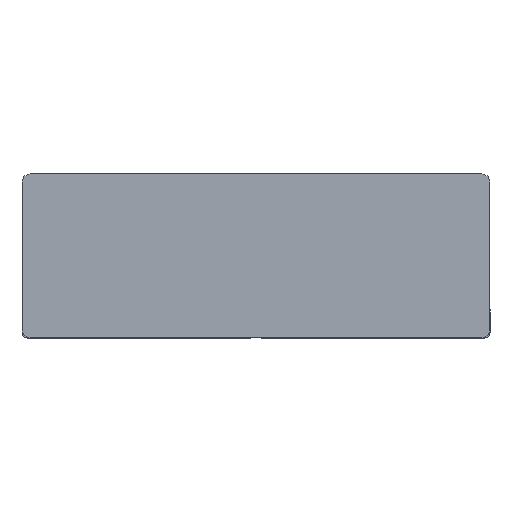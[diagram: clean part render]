
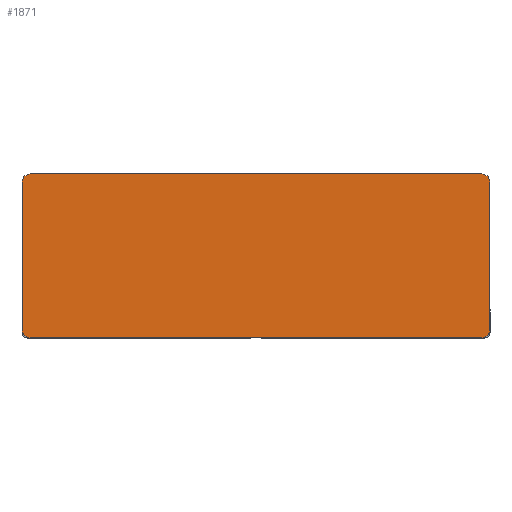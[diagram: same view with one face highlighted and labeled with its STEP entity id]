
A CAD part, top view. The second image highlights one B-rep face of the part: STEP entity #1871.
In plain terms, the highlighted planar face has unit normal (0, 0, 1).
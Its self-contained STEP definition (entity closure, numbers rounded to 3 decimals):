
#17 = CARTESIAN_POINT ( 'NONE',  ( 140., 44., 0. ) ) ;
#100 = VERTEX_POINT ( 'NONE', #2382 ) ;
#154 = EDGE_CURVE ( 'NONE', #771, #352, #3310, .T. ) ;
#169 = EDGE_CURVE ( 'NONE', #3431, #1637, #2527, .T. ) ;
#238 = DIRECTION ( 'NONE',  ( 1., 0., 0. ) ) ;
#325 = EDGE_CURVE ( 'NONE', #1641, #100, #2133, .T. ) ;
#352 = VERTEX_POINT ( 'NONE', #762 ) ;
#386 = DIRECTION ( 'NONE',  ( 0., 0., 1. ) ) ;
#522 = ORIENTED_EDGE ( 'NONE', *, *, #604, .T. ) ;
#589 = LINE ( 'NONE', #2428, #837 ) ;
#604 = EDGE_CURVE ( 'NONE', #3352, #771, #2946, .T. ) ;
#621 = ORIENTED_EDGE ( 'NONE', *, *, #3194, .T. ) ;
#632 = DIRECTION ( 'NONE',  ( 0., 1., 0. ) ) ;
#716 = CARTESIAN_POINT ( 'NONE',  ( -140., 44., 0. ) ) ;
#733 = DIRECTION ( 'NONE',  ( 0., 0., 1. ) ) ;
#762 = CARTESIAN_POINT ( 'NONE',  ( -135., -49., 0. ) ) ;
#771 = VERTEX_POINT ( 'NONE', #2312 ) ;
#772 = LINE ( 'NONE', #1446, #1221 ) ;
#774 = ORIENTED_EDGE ( 'NONE', *, *, #325, .T. ) ;
#796 = DIRECTION ( 'NONE',  ( 1., 0., 0. ) ) ;
#837 = VECTOR ( 'NONE', #2461, 1000. ) ;
#847 = DIRECTION ( 'NONE',  ( 0., 0., 1. ) ) ;
#909 = CARTESIAN_POINT ( 'NONE',  ( 135., 44., 0. ) ) ;
#959 = CARTESIAN_POINT ( 'NONE',  ( 135., 49., 0. ) ) ;
#1007 = ORIENTED_EDGE ( 'NONE', *, *, #3131, .T. ) ;
#1049 = DIRECTION ( 'NONE',  ( 1., 0., 0. ) ) ;
#1058 = CARTESIAN_POINT ( 'NONE',  ( 140., 49., 0. ) ) ;
#1074 = EDGE_CURVE ( 'NONE', #100, #3352, #1796, .T. ) ;
#1221 = VECTOR ( 'NONE', #632, 1000. ) ;
#1437 = DIRECTION ( 'NONE',  ( 0., -1., 0. ) ) ;
#1446 = CARTESIAN_POINT ( 'NONE',  ( 140., -49., 0. ) ) ;
#1489 = ORIENTED_EDGE ( 'NONE', *, *, #1074, .T. ) ;
#1553 = EDGE_CURVE ( 'NONE', #352, #3431, #589, .T. ) ;
#1609 = AXIS2_PLACEMENT_3D ( 'NONE', #1917, #847, #796 ) ;
#1637 = VERTEX_POINT ( 'NONE', #3075 ) ;
#1641 = VERTEX_POINT ( 'NONE', #959 ) ;
#1646 = VECTOR ( 'NONE', #3160, 1000. ) ;
#1796 = CIRCLE ( 'NONE', #3124, 5. ) ;
#1871 = ADVANCED_FACE ( 'NONE', ( #2423 ), #2409, .T. ) ;
#1897 = CARTESIAN_POINT ( 'NONE',  ( -140., -49., 0. ) ) ;
#1916 = VECTOR ( 'NONE', #1437, 1000. ) ;
#1917 = CARTESIAN_POINT ( 'NONE',  ( 0., 0., 0. ) ) ;
#1922 = CARTESIAN_POINT ( 'NONE',  ( -135., -44., 0. ) ) ;
#2040 = CARTESIAN_POINT ( 'NONE',  ( 135., -44., 0. ) ) ;
#2067 = CARTESIAN_POINT ( 'NONE',  ( 135., -49., 0. ) ) ;
#2081 = ORIENTED_EDGE ( 'NONE', *, *, #1553, .T. ) ;
#2115 = CIRCLE ( 'NONE', #2169, 5. ) ;
#2133 = LINE ( 'NONE', #1058, #1646 ) ;
#2169 = AXIS2_PLACEMENT_3D ( 'NONE', #909, #386, #3237 ) ;
#2205 = DIRECTION ( 'NONE',  ( 1., 0., 0. ) ) ;
#2312 = CARTESIAN_POINT ( 'NONE',  ( -140., -44., 0. ) ) ;
#2382 = CARTESIAN_POINT ( 'NONE',  ( -135., 49., 0. ) ) ;
#2409 = PLANE ( 'NONE',  #1609 ) ;
#2423 = FACE_OUTER_BOUND ( 'NONE', #3189, .T. ) ;
#2428 = CARTESIAN_POINT ( 'NONE',  ( 140., -49., 0. ) ) ;
#2461 = DIRECTION ( 'NONE',  ( 1., 0., 0. ) ) ;
#2527 = CIRCLE ( 'NONE', #2578, 5. ) ;
#2578 = AXIS2_PLACEMENT_3D ( 'NONE', #2040, #2730, #2205 ) ;
#2589 = VERTEX_POINT ( 'NONE', #17 ) ;
#2730 = DIRECTION ( 'NONE',  ( 0., 0., 1. ) ) ;
#2844 = ORIENTED_EDGE ( 'NONE', *, *, #169, .T. ) ;
#2946 = LINE ( 'NONE', #1897, #1916 ) ;
#3075 = CARTESIAN_POINT ( 'NONE',  ( 140., -44., 0. ) ) ;
#3124 = AXIS2_PLACEMENT_3D ( 'NONE', #3465, #733, #238 ) ;
#3131 = EDGE_CURVE ( 'NONE', #1637, #2589, #772, .T. ) ;
#3155 = ORIENTED_EDGE ( 'NONE', *, *, #154, .T. ) ;
#3160 = DIRECTION ( 'NONE',  ( -1., 0., 0. ) ) ;
#3189 = EDGE_LOOP ( 'NONE', ( #2081, #2844, #1007, #621, #774, #1489, #522, #3155 ) ) ;
#3194 = EDGE_CURVE ( 'NONE', #2589, #1641, #2115, .T. ) ;
#3237 = DIRECTION ( 'NONE',  ( 1., 0., 0. ) ) ;
#3254 = AXIS2_PLACEMENT_3D ( 'NONE', #1922, #3449, #1049 ) ;
#3310 = CIRCLE ( 'NONE', #3254, 5. ) ;
#3352 = VERTEX_POINT ( 'NONE', #716 ) ;
#3431 = VERTEX_POINT ( 'NONE', #2067 ) ;
#3449 = DIRECTION ( 'NONE',  ( 0., 0., 1. ) ) ;
#3465 = CARTESIAN_POINT ( 'NONE',  ( -135., 44., 0. ) ) ;
